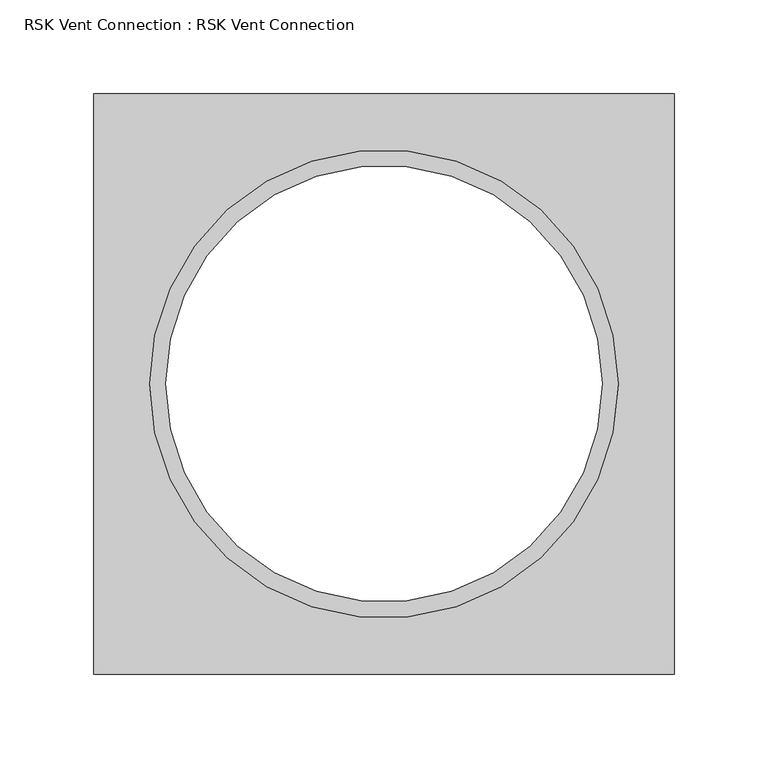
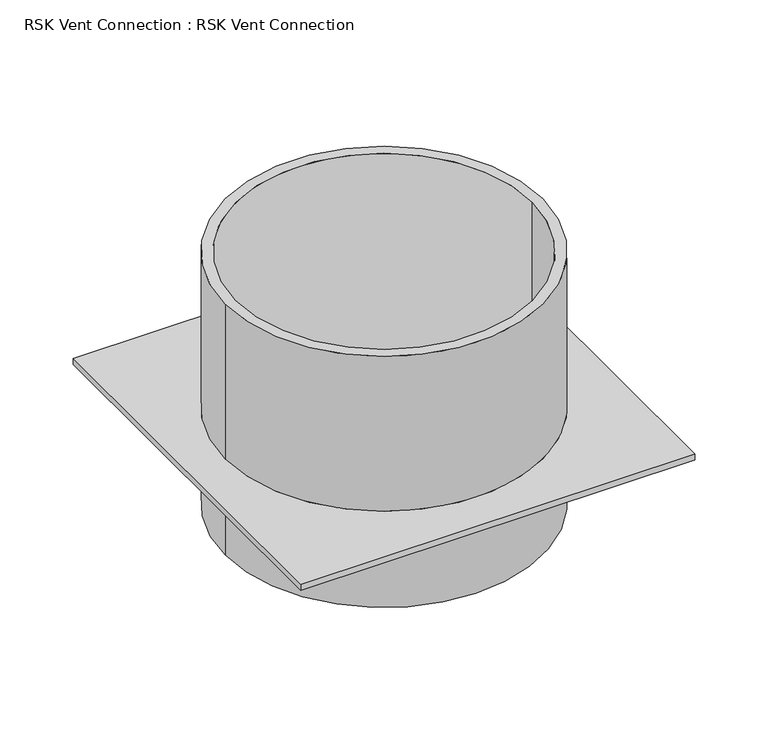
"""IFC4 building model written with IfcOpenShell, lengths in millimetres: proxy geometry, RSK Vent Connection : RSK Vent Connection."""

from ifc_helpers import new_model, si_unit, frame, origin, place, context, project, spatial, polyline, circle_curve, source, transform, mapped, element, save
from ifc_brep_helpers import plane_surface, cylinder_surface, revolved_surface, advanced_brep


def rsk_vent_connection_rsk_vent_connection_fca93ae3(model_context):
    return source(origin(), model_context, "Body", "AdvancedBrep", [
        advanced_brep(
        [(155.0, -155.0, 5.0), (155.0, 155.0, 5.0), (-155.0, 155.0, 5.0), (-155.0, -155.0, 5.0), (-125.0, 0.0, 5.0), (125.0, 0.0, 5.0), (155.0, -155.0, 0.0), (-155.0, -155.0, 0.0), (-155.0, 155.0, 0.0), (155.0, 155.0, 0.0), (125.0, 0.0, 0.0), (-125.0, 0.0, 0.0), (125.0, 0.0, 134.0), (-125.0, 0.0, 134.0), (116.5, 0.0, 134.0), (-116.5, 0.0, 134.0), (125.0, 0.0, -75.0), (-125.0, 0.0, -75.0), (116.5, 0.0, -75.0), (-116.5, 0.0, -75.0)],
        [
            (0, 1),
            (1, 2),
            (2, 3),
            (3, 0),
            (4, 5, circle_curve(frame((0.0, 0.0, 5.0), z_axis=(0.0, 0.0, -1.0), x_axis=(-1.0, 0.0, 0.0)), 125.0)),
            (5, 4, circle_curve(frame((0.0, 0.0, 5.0), z_axis=(0.0, 0.0, -1.0), x_axis=(-1.0, 0.0, 0.0)), 125.0)),
            (6, 7),
            (7, 8),
            (8, 9),
            (9, 6),
            (10, 11, circle_curve(frame((0.0, 0.0, 0.0), z_axis=(0.0, 0.0, 1.0), x_axis=(-1.0, 0.0, 0.0)), 125.0)),
            (11, 10, circle_curve(frame((0.0, 0.0, 0.0), z_axis=(0.0, 0.0, 1.0), x_axis=(-1.0, 0.0, 0.0)), 125.0)),
            (0, 6),
            (9, 1),
            (8, 2),
            (7, 3),
            (12, 13, circle_curve(frame((0.0, 0.0, 134.0), z_axis=(0.0, 0.0, 1.0), x_axis=(-1.0, 0.0, 0.0)), 125.0)),
            (13, 12, circle_curve(frame((0.0, 0.0, 134.0), z_axis=(0.0, 0.0, 1.0), x_axis=(-1.0, 0.0, 0.0)), 125.0)),
            (14, 15, circle_curve(frame((0.0, 0.0, 134.0), z_axis=(0.0, 0.0, -1.0), x_axis=(-1.0, 0.0, 0.0)), 116.5)),
            (15, 14, circle_curve(frame((0.0, 0.0, 134.0), z_axis=(0.0, 0.0, -1.0), x_axis=(-1.0, 0.0, 0.0)), 116.5)),
            (16, 17, circle_curve(frame((0.0, 0.0, -75.0), z_axis=(0.0, 0.0, -1.0), x_axis=(-1.0, 0.0, 0.0)), 125.0)),
            (17, 16, circle_curve(frame((0.0, 0.0, -75.0), z_axis=(0.0, 0.0, -1.0), x_axis=(-1.0, 0.0, 0.0)), 125.0)),
            (18, 19, circle_curve(frame((0.0, 0.0, -75.0), z_axis=(0.0, 0.0, 1.0), x_axis=(-1.0, 0.0, 0.0)), 116.5)),
            (19, 18, circle_curve(frame((0.0, 0.0, -75.0), z_axis=(0.0, 0.0, 1.0), x_axis=(-1.0, 0.0, 0.0)), 116.5)),
            (12, 5),
            (4, 13),
            (17, 11),
            (10, 16),
            (14, 18),
            (19, 15),
        ],
        [
            plane_surface(frame((155.0, -155.0, 5.0), z_axis=(0.0, 0.0, 1.0), x_axis=(0.0, 1.0, 0.0))),
            plane_surface(frame((155.0, -155.0, 0.0), z_axis=(0.0, 0.0, -1.0), x_axis=(0.0, -1.0, 0.0))),
            plane_surface(frame((155.0, -155.0, 5.0), z_axis=(1.0, 0.0, 0.0), x_axis=(0.0, 0.0, -1.0))),
            plane_surface(frame((155.0, 155.0, 5.0), z_axis=(0.0, 1.0, 0.0), x_axis=(0.0, 0.0, -1.0))),
            plane_surface(frame((-155.0, 155.0, 5.0), z_axis=(-1.0, 0.0, 0.0), x_axis=(0.0, 0.0, -1.0))),
            plane_surface(frame((-155.0, -155.0, 5.0), z_axis=(0.0, -1.0, 0.0), x_axis=(0.0, 0.0, -1.0))),
            plane_surface(frame((-125.0, 0.0, 134.0), z_axis=(0.0, 0.0, 1.0), x_axis=(0.0, -1.0, 0.0))),
            plane_surface(frame((-125.0, 0.0, -75.0), z_axis=(0.0, 0.0, -1.0), x_axis=(0.0, 1.0, 0.0))),
            cylinder_surface(frame((0.0, 0.0, -75.0), z_axis=(0.0, 0.0, 1.0), x_axis=(-1.0, 0.0, 0.0)), 125.0),
            revolved_surface(polyline([(-116.5, 0.0, -75.0), (-116.5, 0.0, 134.0)]), (0.0, 0.0, -75.0), (0.0, 0.0, -1.0)),
        ],
        [
            (0, [[1, 2, 3, 4], [5, 6]]),
            (1, [[7, 8, 9, 10], [11, 12]]),
            (2, [[-1, 13, -10, 14]]),
            (3, [[-2, -14, -9, 15]]),
            (4, [[-3, -15, -8, 16]]),
            (5, [[-4, -16, -7, -13]]),
            (6, [[17, 18], [19, 20]]),
            (7, [[21, 22], [23, 24]]),
            (8, [[-17, 25, -5, 26]]),
            (8, [[-22, 27, -11, 28]]),
            (8, [[-18, -26, -6, -25]]),
            (8, [[-21, -28, -12, -27]]),
            (9, [[-19, 29, -24, 30]]),
            (9, [[-20, -30, -23, -29]]),
        ],
    ),
    ])


if __name__ == "__main__":
    model = new_model("IFC4")
    model_context = context("Model", 3, world=origin())
    ifc_project = project(units=[si_unit("LENGTHUNIT", "METRE", prefix="MILLI")], contexts=[model_context])
    site = spatial("IfcSite", under=ifc_project)
    building = spatial("IfcBuilding", under=site)
    placement = place(None, origin())
    rsk_vent_connection_rsk_vent_connection_shape = rsk_vent_connection_rsk_vent_connection_fca93ae3(model_context)
    element("IfcBuildingElementProxy", 1, Name="RSK Vent Connection : RSK Vent Connection", ObjectType="RSK Vent Connection : RSK Vent Connection", at=placement, inside=building, context=model_context, shape_type="MappedRepresentation", body=[
        mapped(rsk_vent_connection_rsk_vent_connection_shape, transform((0.0, 0.0, 0.0), x_axis=(1.0, 0.0, 0.0), y_axis=(0.0, 1.0, 0.0), z_axis=(0.0, 0.0, 1.0))),
    ])
    save(model, "model.ifc")
